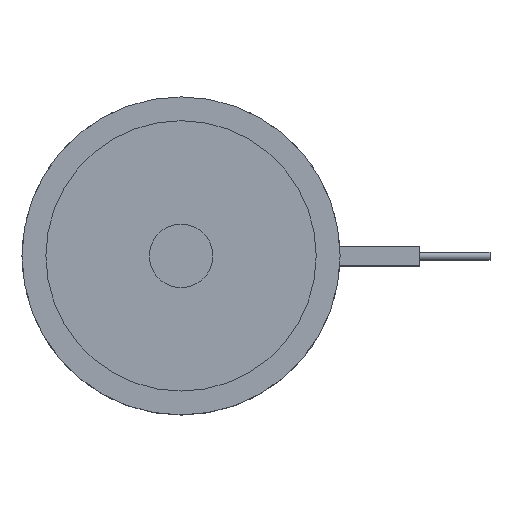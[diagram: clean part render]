
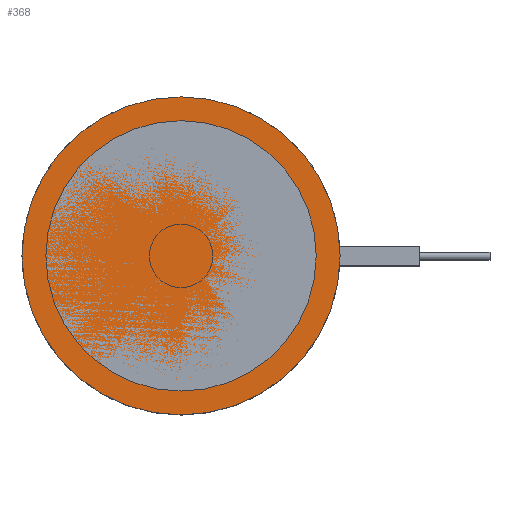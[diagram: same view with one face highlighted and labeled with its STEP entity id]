
A CAD part, top view. The second image highlights one B-rep face of the part: STEP entity #368.
In plain terms, the highlighted planar face has unit normal (0, 0, 1).
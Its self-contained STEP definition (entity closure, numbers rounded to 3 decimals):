
#237=PLANE('',#1176);
#289=FACE_OUTER_BOUND('',#559,.T.);
#368=ADVANCED_FACE('',(#289),#237,.F.);
#559=EDGE_LOOP('',(#779));
#779=ORIENTED_EDGE('',*,*,#982,.F.);
#871=VERTEX_POINT('',#1859);
#982=EDGE_CURVE('',#871,#871,#1044,.T.);
#1044=CIRCLE('',#1175,20.);
#1175=AXIS2_PLACEMENT_3D('',#1858,#1478,#1479);
#1176=AXIS2_PLACEMENT_3D('',#1860,#1480,#1481);
#1478=DIRECTION('',(0.,0.,-1.));
#1479=DIRECTION('',(-1.,0.,0.));
#1480=DIRECTION('',(0.,0.,-1.));
#1481=DIRECTION('',(-1.,0.,0.));
#1858=CARTESIAN_POINT('',(0.,0.,0.));
#1859=CARTESIAN_POINT('',(-20.,0.,0.));
#1860=CARTESIAN_POINT('',(0.,0.,0.));
